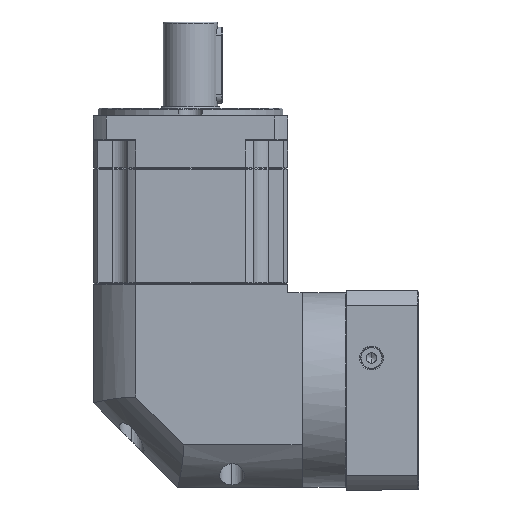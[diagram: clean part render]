
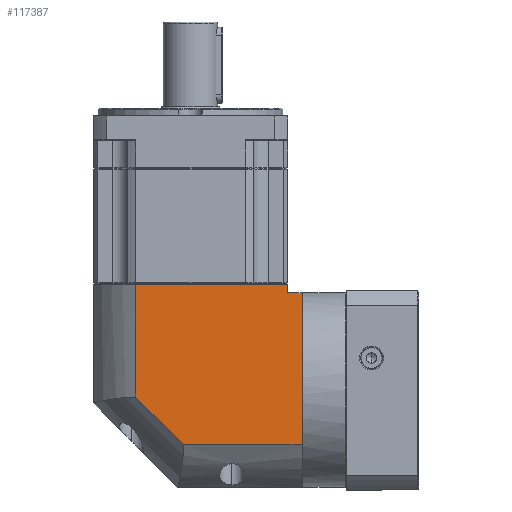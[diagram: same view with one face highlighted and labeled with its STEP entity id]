
A CAD part, left-side view. The second image highlights one B-rep face of the part: STEP entity #117387.
In plain terms, the highlighted planar face has unit normal (-1, 0, 0).
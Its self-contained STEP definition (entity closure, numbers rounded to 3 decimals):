
#4088 = EDGE_CURVE ( 'NONE', #68527, #74275, #23186, .T. ) ;
#4654 = VERTEX_POINT ( 'NONE', #6194 ) ;
#6017 = ORIENTED_EDGE ( 'NONE', *, *, #130457, .T. ) ;
#6194 = CARTESIAN_POINT ( 'NONE',  ( -284.014, -107.232, -67.518 ) ) ;
#9671 = ORIENTED_EDGE ( 'NONE', *, *, #137638, .T. ) ;
#9727 = CARTESIAN_POINT ( 'NONE',  ( -284.014, -8.932, 33.882 ) ) ;
#12705 = DIRECTION ( 'NONE',  ( 0., 0., 1. ) ) ;
#15998 = CARTESIAN_POINT ( 'NONE',  ( -284.014, -98.832, 27.382 ) ) ;
#23186 = LINE ( 'NONE', #140255, #157791 ) ;
#25850 = CARTESIAN_POINT ( 'NONE',  ( -284.014, -8.932, -39.18 ) ) ;
#25928 = DIRECTION ( 'NONE',  ( 0., 1., 0. ) ) ;
#27682 = EDGE_CURVE ( 'NONE', #74275, #84431, #149157, .T. ) ;
#32132 = VECTOR ( 'NONE', #54562, 1000. ) ;
#41908 = VECTOR ( 'NONE', #50366, 1000. ) ;
#46471 = ORIENTED_EDGE ( 'NONE', *, *, #59676, .F. ) ;
#50366 = DIRECTION ( 'NONE',  ( 0., 0., 1. ) ) ;
#54562 = DIRECTION ( 'NONE',  ( 0., 0., -1. ) ) ;
#59676 = EDGE_CURVE ( 'NONE', #114573, #4654, #135144, .T. ) ;
#61632 = VERTEX_POINT ( 'NONE', #75891 ) ;
#68416 = VECTOR ( 'NONE', #12705, 1000. ) ;
#68527 = VERTEX_POINT ( 'NONE', #166867 ) ;
#71969 = CARTESIAN_POINT ( 'NONE',  ( -284.014, -107.232, 22.382 ) ) ;
#72602 = EDGE_CURVE ( 'NONE', #84431, #122986, #80169, .T. ) ;
#73395 = CARTESIAN_POINT ( 'NONE',  ( -284.014, 16.168, -67.518 ) ) ;
#74275 = VERTEX_POINT ( 'NONE', #25850 ) ;
#74607 = DIRECTION ( 'NONE',  ( 1., 0., 0. ) ) ;
#75891 = CARTESIAN_POINT ( 'NONE',  ( -284.014, -98.832, 22.382 ) ) ;
#75985 = VECTOR ( 'NONE', #83261, 1000. ) ;
#76972 = FACE_OUTER_BOUND ( 'NONE', #115493, .T. ) ;
#80169 = LINE ( 'NONE', #136679, #75985 ) ;
#83261 = DIRECTION ( 'NONE',  ( 0., -1., 0. ) ) ;
#84431 = VERTEX_POINT ( 'NONE', #145110 ) ;
#87606 = PLANE ( 'NONE',  #91863 ) ;
#89643 = ORIENTED_EDGE ( 'NONE', *, *, #4088, .F. ) ;
#91737 = LINE ( 'NONE', #73395, #163124 ) ;
#91863 = AXIS2_PLACEMENT_3D ( 'NONE', #155146, #74607, #168541 ) ;
#93537 = CARTESIAN_POINT ( 'NONE',  ( -284.014, -98.832, 22.382 ) ) ;
#108397 = LINE ( 'NONE', #173678, #68416 ) ;
#114573 = VERTEX_POINT ( 'NONE', #71969 ) ;
#115493 = EDGE_LOOP ( 'NONE', ( #116527, #89643, #131346, #46471, #6017, #9671, #145611 ) ) ;
#116527 = ORIENTED_EDGE ( 'NONE', *, *, #27682, .F. ) ;
#117387 = ADVANCED_FACE ( 'NONE', ( #76972 ), #87606, .F. ) ;
#122986 = VERTEX_POINT ( 'NONE', #15998 ) ;
#126781 = DIRECTION ( 'NONE',  ( 0., 0.707, 0.707 ) ) ;
#130457 = EDGE_CURVE ( 'NONE', #114573, #61632, #131199, .T. ) ;
#131199 = LINE ( 'NONE', #93537, #166826 ) ;
#131346 = ORIENTED_EDGE ( 'NONE', *, *, #137315, .F. ) ;
#135144 = LINE ( 'NONE', #135618, #32132 ) ;
#135618 = CARTESIAN_POINT ( 'NONE',  ( -284.014, -107.232, 33.882 ) ) ;
#136679 = CARTESIAN_POINT ( 'NONE',  ( -284.014, 16.168, 27.382 ) ) ;
#137315 = EDGE_CURVE ( 'NONE', #4654, #68527, #91737, .T. ) ;
#137638 = EDGE_CURVE ( 'NONE', #61632, #122986, #108397, .T. ) ;
#140255 = CARTESIAN_POINT ( 'NONE',  ( -284.014, -37.27, -67.518 ) ) ;
#145110 = CARTESIAN_POINT ( 'NONE',  ( -284.014, -8.932, 27.382 ) ) ;
#145611 = ORIENTED_EDGE ( 'NONE', *, *, #72602, .F. ) ;
#149157 = LINE ( 'NONE', #9727, #41908 ) ;
#155146 = CARTESIAN_POINT ( 'NONE',  ( -284.014, 16.168, 33.882 ) ) ;
#157791 = VECTOR ( 'NONE', #126781, 1000. ) ;
#163124 = VECTOR ( 'NONE', #167333, 1000. ) ;
#166826 = VECTOR ( 'NONE', #25928, 1000. ) ;
#166867 = CARTESIAN_POINT ( 'NONE',  ( -284.014, -37.27, -67.518 ) ) ;
#167333 = DIRECTION ( 'NONE',  ( 0., 1., 0. ) ) ;
#168541 = DIRECTION ( 'NONE',  ( 0., 1., 0. ) ) ;
#173678 = CARTESIAN_POINT ( 'NONE',  ( -284.014, -98.832, -92.618 ) ) ;
